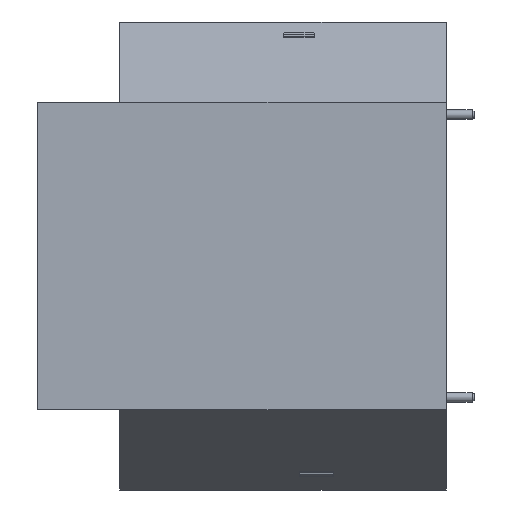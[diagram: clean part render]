
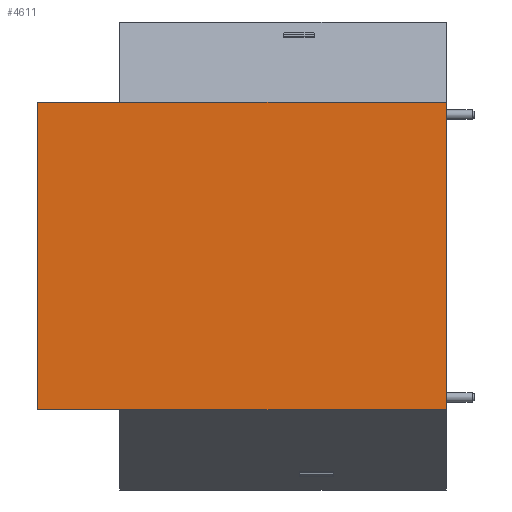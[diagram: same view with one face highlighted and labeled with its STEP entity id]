
A CAD part, left-side view. The second image highlights one B-rep face of the part: STEP entity #4611.
In plain terms, the highlighted planar face has unit normal (-1, 0, 0).
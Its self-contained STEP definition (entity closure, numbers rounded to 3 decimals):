
#1292=CARTESIAN_POINT('Vertex',(-740.,0.,1480.)) ;
#1295=CARTESIAN_POINT('Line Origine',(-740.,0.,740.)) ;
#1299=CARTESIAN_POINT('Vertex',(-740.,0.,0.)) ;
#4075=CARTESIAN_POINT('Vertex',(-740.,1965.,1480.)) ;
#4082=CARTESIAN_POINT('Vertex',(-740.,1965.,0.)) ;
#4085=CARTESIAN_POINT('Line Origine',(-740.,1965.,740.)) ;
#4577=CARTESIAN_POINT('Line Origine',(-740.,982.5,0.)) ;
#4595=CARTESIAN_POINT('Axis2P3D Location',(-740.,1965.,0.)) ;
#4600=CARTESIAN_POINT('Line Origine',(-740.,982.5,1480.)) ;
#1297=VECTOR('Line Direction',#1296,1.) ;
#4087=VECTOR('Line Direction',#4086,1.) ;
#4579=VECTOR('Line Direction',#4578,1.) ;
#4602=VECTOR('Line Direction',#4601,1.) ;
#1296=DIRECTION('Vector Direction',(0.,0.,1.)) ;
#4086=DIRECTION('Vector Direction',(0.,0.,1.)) ;
#4578=DIRECTION('Vector Direction',(0.,-1.,0.)) ;
#4596=DIRECTION('Axis2P3D Direction',(1.,0.,0.)) ;
#4597=DIRECTION('Axis2P3D XDirection',(0.,0.,-1.)) ;
#4601=DIRECTION('Vector Direction',(0.,-1.,0.)) ;
#4598=AXIS2_PLACEMENT_3D('Plane Axis2P3D',#4595,#4596,#4597) ;
#1298=LINE('Line',#1295,#1297) ;
#4088=LINE('Line',#4085,#4087) ;
#4580=LINE('Line',#4577,#4579) ;
#4603=LINE('Line',#4600,#4602) ;
#4599=PLANE('',#4598) ;
#1301=EDGE_CURVE('',#1300,#1293,#1298,.T.) ;
#4089=EDGE_CURVE('',#4083,#4076,#4088,.T.) ;
#4581=EDGE_CURVE('',#4083,#1300,#4580,.T.) ;
#4604=EDGE_CURVE('',#4076,#1293,#4603,.T.) ;
#4605=EDGE_LOOP('',(#4606,#4607,#4608,#4609)) ;
#4606=ORIENTED_EDGE('',*,*,#1301,.T.) ;
#4607=ORIENTED_EDGE('',*,*,#4604,.F.) ;
#4608=ORIENTED_EDGE('',*,*,#4089,.F.) ;
#4609=ORIENTED_EDGE('',*,*,#4581,.T.) ;
#1293=VERTEX_POINT('',#1292) ;
#1300=VERTEX_POINT('',#1299) ;
#4076=VERTEX_POINT('',#4075) ;
#4083=VERTEX_POINT('',#4082) ;
#4611=ADVANCED_FACE('Part 15',(#4610),#4599,.F.) ;
#4610=FACE_OUTER_BOUND('',#4605,.T.) ;
